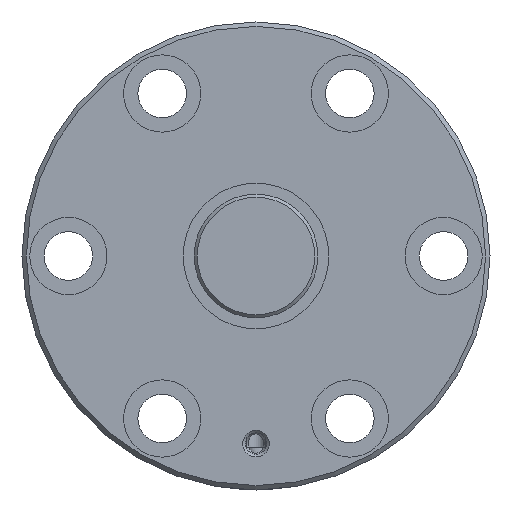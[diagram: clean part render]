
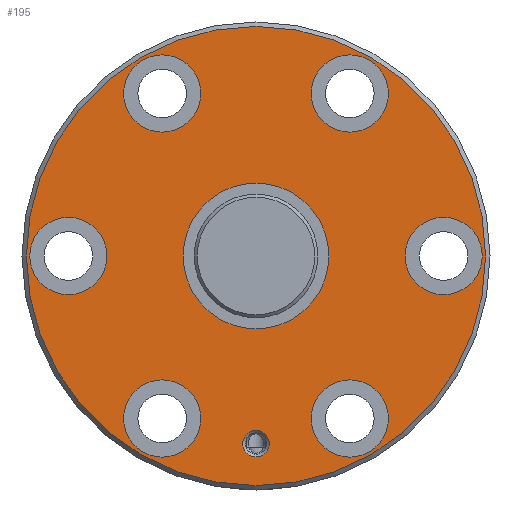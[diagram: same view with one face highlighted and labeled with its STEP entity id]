
A CAD part, left-side view. The second image highlights one B-rep face of the part: STEP entity #195.
In plain terms, the highlighted planar face has unit normal (-1, 0, 0).
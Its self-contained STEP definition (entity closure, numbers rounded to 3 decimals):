
#195 = ADVANCED_FACE( '', ( #329, #330, #331, #332, #333, #334, #335, #336, #337 ), #338, .T. );
#329 = FACE_BOUND( '', #567, .T. );
#330 = FACE_BOUND( '', #568, .T. );
#331 = FACE_BOUND( '', #569, .T. );
#332 = FACE_BOUND( '', #570, .T. );
#333 = FACE_BOUND( '', #571, .T. );
#334 = FACE_BOUND( '', #572, .T. );
#335 = FACE_BOUND( '', #573, .T. );
#336 = FACE_BOUND( '', #574, .T. );
#337 = FACE_OUTER_BOUND( '', #575, .T. );
#338 = PLANE( '', #576 );
#567 = EDGE_LOOP( '', ( #858 ) );
#568 = EDGE_LOOP( '', ( #859 ) );
#569 = EDGE_LOOP( '', ( #860 ) );
#570 = EDGE_LOOP( '', ( #861 ) );
#571 = EDGE_LOOP( '', ( #862 ) );
#572 = EDGE_LOOP( '', ( #863 ) );
#573 = EDGE_LOOP( '', ( #864 ) );
#574 = EDGE_LOOP( '', ( #865 ) );
#575 = EDGE_LOOP( '', ( #866 ) );
#576 = AXIS2_PLACEMENT_3D( '', #867, #868, #869 );
#858 = ORIENTED_EDGE( '', *, *, #1254, .T. );
#859 = ORIENTED_EDGE( '', *, *, #1251, .T. );
#860 = ORIENTED_EDGE( '', *, *, #1240, .T. );
#861 = ORIENTED_EDGE( '', *, *, #1255, .T. );
#862 = ORIENTED_EDGE( '', *, *, #1256, .T. );
#863 = ORIENTED_EDGE( '', *, *, #1257, .T. );
#864 = ORIENTED_EDGE( '', *, *, #1258, .T. );
#865 = ORIENTED_EDGE( '', *, *, #1247, .T. );
#866 = ORIENTED_EDGE( '', *, *, #1259, .F. );
#867 = CARTESIAN_POINT( '', ( 0., 52., 0. ) );
#868 = DIRECTION( '', ( -1., 0., 0. ) );
#869 = DIRECTION( '', ( 0., 0., 1. ) );
#1240 = EDGE_CURVE( '', #1383, #1383, #1384, .T. );
#1247 = EDGE_CURVE( '', #1397, #1397, #1398, .T. );
#1251 = EDGE_CURVE( '', #1405, #1405, #1406, .F. );
#1254 = EDGE_CURVE( '', #1411, #1411, #1412, .T. );
#1255 = EDGE_CURVE( '', #1413, #1413, #1414, .T. );
#1256 = EDGE_CURVE( '', #1415, #1415, #1416, .T. );
#1257 = EDGE_CURVE( '', #1417, #1417, #1418, .T. );
#1258 = EDGE_CURVE( '', #1419, #1419, #1420, .T. );
#1259 = EDGE_CURVE( '', #1421, #1421, #1422, .T. );
#1383 = VERTEX_POINT( '', #1712 );
#1384 = CIRCLE( '', #1713, 3. );
#1397 = VERTEX_POINT( '', #1726 );
#1398 = CIRCLE( '', #1727, 8.75 );
#1405 = VERTEX_POINT( '', #1734 );
#1406 = CIRCLE( '', #1735, 8.75 );
#1411 = VERTEX_POINT( '', #1740 );
#1412 = CIRCLE( '', #1741, 16.5 );
#1413 = VERTEX_POINT( '', #1742 );
#1414 = CIRCLE( '', #1743, 8.75 );
#1415 = VERTEX_POINT( '', #1744 );
#1416 = CIRCLE( '', #1745, 8.75 );
#1417 = VERTEX_POINT( '', #1746 );
#1418 = CIRCLE( '', #1747, 8.75 );
#1419 = VERTEX_POINT( '', #1748 );
#1420 = CIRCLE( '', #1749, 8.75 );
#1421 = VERTEX_POINT( '', #1750 );
#1422 = CIRCLE( '', #1751, 52. );
#1712 = CARTESIAN_POINT( '', ( 0., 0., -45.5 ) );
#1713 = AXIS2_PLACEMENT_3D( '', #2249, #2250, #2251 );
#1726 = CARTESIAN_POINT( '', ( 0., -42.5, -8.75 ) );
#1727 = AXIS2_PLACEMENT_3D( '', #2270, #2271, #2272 );
#1734 = CARTESIAN_POINT( '', ( 0., 42.5, 8.75 ) );
#1735 = AXIS2_PLACEMENT_3D( '', #2282, #2283, #2284 );
#1740 = CARTESIAN_POINT( '', ( 0., 0., -16.5 ) );
#1741 = AXIS2_PLACEMENT_3D( '', #2291, #2292, #2293 );
#1742 = CARTESIAN_POINT( '', ( 0., 21.25, 28.056 ) );
#1743 = AXIS2_PLACEMENT_3D( '', #2294, #2295, #2296 );
#1744 = CARTESIAN_POINT( '', ( 0., -21.25, -45.556 ) );
#1745 = AXIS2_PLACEMENT_3D( '', #2297, #2298, #2299 );
#1746 = CARTESIAN_POINT( '', ( 0., -21.25, 28.056 ) );
#1747 = AXIS2_PLACEMENT_3D( '', #2300, #2301, #2302 );
#1748 = CARTESIAN_POINT( '', ( 0., 21.25, -45.556 ) );
#1749 = AXIS2_PLACEMENT_3D( '', #2303, #2304, #2305 );
#1750 = CARTESIAN_POINT( '', ( 0., 0., -52. ) );
#1751 = AXIS2_PLACEMENT_3D( '', #2306, #2307, #2308 );
#2249 = CARTESIAN_POINT( '', ( 0., 0., -42.5 ) );
#2250 = DIRECTION( '', ( 1., 0., 0. ) );
#2251 = DIRECTION( '', ( 0., 0., -1. ) );
#2270 = CARTESIAN_POINT( '', ( 0., -42.5, 0. ) );
#2271 = DIRECTION( '', ( 1., 0., 0. ) );
#2272 = DIRECTION( '', ( 0., 0., -1. ) );
#2282 = CARTESIAN_POINT( '', ( 0., 42.5, 0. ) );
#2283 = DIRECTION( '', ( -1., 0., 0. ) );
#2284 = DIRECTION( '', ( 0., 0., 1. ) );
#2291 = CARTESIAN_POINT( '', ( 0., 0., 0. ) );
#2292 = DIRECTION( '', ( 1., 0., 0. ) );
#2293 = DIRECTION( '', ( 0., 0., -1. ) );
#2294 = CARTESIAN_POINT( '', ( 0., 21.25, 36.806 ) );
#2295 = DIRECTION( '', ( 1., 0., 0. ) );
#2296 = DIRECTION( '', ( 0., 0., -1. ) );
#2297 = CARTESIAN_POINT( '', ( 0., -21.25, -36.806 ) );
#2298 = DIRECTION( '', ( 1., 0., 0. ) );
#2299 = DIRECTION( '', ( 0., 0., -1. ) );
#2300 = CARTESIAN_POINT( '', ( 0., -21.25, 36.806 ) );
#2301 = DIRECTION( '', ( 1., 0., 0. ) );
#2302 = DIRECTION( '', ( 0., 0., -1. ) );
#2303 = CARTESIAN_POINT( '', ( 0., 21.25, -36.806 ) );
#2304 = DIRECTION( '', ( 1., 0., 0. ) );
#2305 = DIRECTION( '', ( 0., 0., -1. ) );
#2306 = CARTESIAN_POINT( '', ( 0., 0., 0. ) );
#2307 = DIRECTION( '', ( 1., 0., 0. ) );
#2308 = DIRECTION( '', ( 0., 0., -1. ) );
